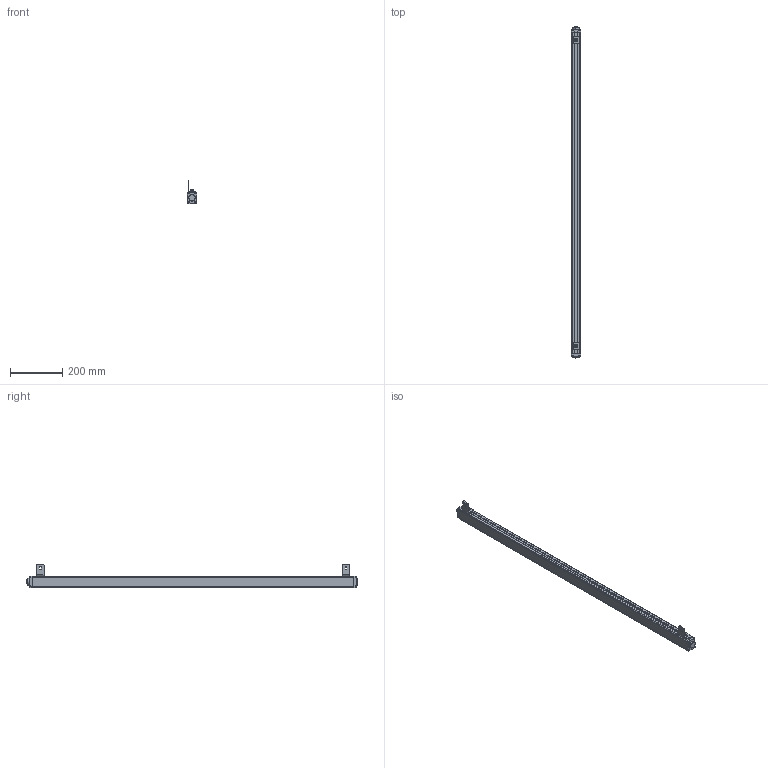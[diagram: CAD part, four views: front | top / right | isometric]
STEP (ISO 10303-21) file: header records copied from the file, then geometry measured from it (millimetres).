
FILE_DESCRIPTION((''),'2;1');
FILE_NAME('ESCL-00_ASM','2021-07-17T11:09:22',('18720616900'),(''),'CREO PARAMETRIC BY PTC INC, 2019010','CREO PARAMETRIC BY PTC INC, 2019010','');
FILE_SCHEMA(('CONFIG_CONTROL_DESIGN'));
Products named in the file (12): ESCL-00; ESCL-3-SOLID1000; ESCL-4-SOLID1000; HKCT1_-4-SOLID1; L10001; M6-8--0001; M6-1--00; M6-1-00; 00; M6-80001_ASM; L1--0001_ASM; ESCL-00_ASM
Assembly tree (12 placements, depth 4):
  ESCL-00_ASM
    ESCL-00
    ESCL-3-SOLID1000
    ESCL-4-SOLID1000
    HKCT1_-4-SOLID1
    L1--0001_ASM  x2
      L10001
      M6-80001_ASM
        M6-8--0001
        M6-1--00
        M6-1-00
        00
Bounding box: 36.1 x 1265.1 x 91.11 mm (x, y, z)
Volume: 1807353.7 mm3; surface area: 268586.3 mm2
Topology: 14 solids, 14 shells, 625 faces, 1645 edges, 1070 vertices
Faces by surface type: plane 226, cylinder 208, cone 78, bspline 66, torus 47
Entity records: 76177 total; most frequent: CARTESIAN_POINT 63991, ORIENTED_EDGE 2664, DIRECTION 2275, EDGE_CURVE 1332, VERTEX_POINT 872, AXIS2_PLACEMENT_3D 816, VECTOR 643, LINE 643
